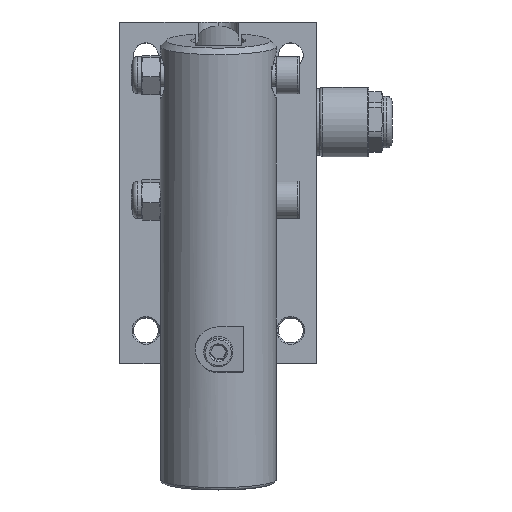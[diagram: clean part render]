
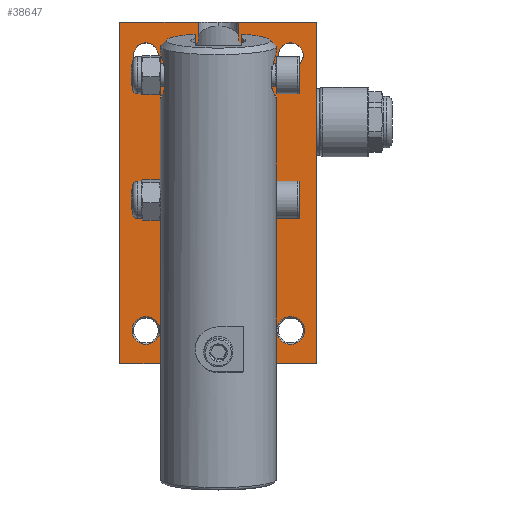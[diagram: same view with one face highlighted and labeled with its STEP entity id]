
A CAD part, top view. The second image highlights one B-rep face of the part: STEP entity #38647.
In plain terms, the highlighted planar face has unit normal (0, 0, 1).
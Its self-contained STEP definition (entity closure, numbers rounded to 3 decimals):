
#281=LINE('',#71716,#4854);
#285=LINE('',#71729,#4858);
#286=LINE('',#71731,#4859);
#292=LINE('',#71801,#4865);
#294=LINE('',#71804,#4867);
#295=LINE('',#71806,#4868);
#297=LINE('',#71809,#4870);
#298=LINE('',#71865,#4871);
#299=LINE('',#71867,#4872);
#300=LINE('',#71869,#4873);
#301=LINE('',#71871,#4874);
#302=LINE('',#71873,#4875);
#4854=VECTOR('',#59704,1000.);
#4858=VECTOR('',#59714,1000.);
#4859=VECTOR('',#59717,1000.);
#4865=VECTOR('',#59783,1000.);
#4867=VECTOR('',#59785,1000.);
#4868=VECTOR('',#59788,1000.);
#4870=VECTOR('',#59790,1000.);
#4871=VECTOR('',#59847,1000.);
#4872=VECTOR('',#59848,1000.);
#4873=VECTOR('',#59849,1000.);
#4874=VECTOR('',#59850,1000.);
#4875=VECTOR('',#59851,1000.);
#9360=PLANE('',#56051);
#12774=ORIENTED_EDGE('',*,*,#23261,.F.);
#12775=ORIENTED_EDGE('',*,*,#23218,.F.);
#12776=ORIENTED_EDGE('',*,*,#23217,.T.);
#12777=ORIENTED_EDGE('',*,*,#23215,.T.);
#12778=ORIENTED_EDGE('',*,*,#23213,.T.);
#12779=ORIENTED_EDGE('',*,*,#23262,.T.);
#12780=ORIENTED_EDGE('',*,*,#23263,.F.);
#12781=ORIENTED_EDGE('',*,*,#23264,.F.);
#12782=ORIENTED_EDGE('',*,*,#23265,.F.);
#12783=ORIENTED_EDGE('',*,*,#23266,.T.);
#12784=ORIENTED_EDGE('',*,*,#23241,.T.);
#12785=ORIENTED_EDGE('',*,*,#23212,.T.);
#12786=ORIENTED_EDGE('',*,*,#23243,.T.);
#12787=ORIENTED_EDGE('',*,*,#23211,.F.);
#12788=ORIENTED_EDGE('',*,*,#23238,.T.);
#12789=ORIENTED_EDGE('',*,*,#23205,.T.);
#12790=ORIENTED_EDGE('',*,*,#23240,.T.);
#12791=ORIENTED_EDGE('',*,*,#23204,.T.);
#23204=EDGE_CURVE('',#32254,#32254,#28394,.F.);
#23205=EDGE_CURVE('',#32233,#32236,#281,.T.);
#23211=EDGE_CURVE('',#32260,#32256,#285,.T.);
#23212=EDGE_CURVE('',#32235,#32234,#286,.T.);
#23213=EDGE_CURVE('',#32261,#32261,#28397,.F.);
#23215=EDGE_CURVE('',#32263,#32263,#28399,.F.);
#23217=EDGE_CURVE('',#32265,#32265,#28401,.T.);
#23218=EDGE_CURVE('',#32266,#32266,#28402,.T.);
#23238=EDGE_CURVE('',#32260,#32233,#292,.T.);
#23240=EDGE_CURVE('',#32236,#32280,#294,.T.);
#23241=EDGE_CURVE('',#32281,#32235,#295,.T.);
#23243=EDGE_CURVE('',#32234,#32256,#297,.T.);
#23261=EDGE_CURVE('',#32293,#32293,#28422,.T.);
#23262=EDGE_CURVE('',#32280,#32294,#298,.T.);
#23263=EDGE_CURVE('',#32295,#32294,#299,.T.);
#23264=EDGE_CURVE('',#32296,#32295,#300,.T.);
#23265=EDGE_CURVE('',#32297,#32296,#301,.T.);
#23266=EDGE_CURVE('',#32297,#32281,#302,.T.);
#28394=CIRCLE('',#55988,19.056);
#28397=CIRCLE('',#55995,4.795);
#28399=CIRCLE('',#55998,4.795);
#28401=CIRCLE('',#56001,7.992);
#28402=CIRCLE('',#56003,4.296);
#28422=CIRCLE('',#56052,4.296);
#29444=EDGE_LOOP('',(#12774));
#29445=EDGE_LOOP('',(#12775));
#29446=EDGE_LOOP('',(#12776));
#29447=EDGE_LOOP('',(#12777));
#29448=EDGE_LOOP('',(#12778));
#29449=EDGE_LOOP('',(#12779,#12780,#12781,#12782,#12783,#12784,#12785,#12786,
#12787,#12788,#12789,#12790));
#29450=EDGE_LOOP('',(#12791));
#32233=VERTEX_POINT('',#71638);
#32234=VERTEX_POINT('',#71641);
#32235=VERTEX_POINT('',#71644);
#32236=VERTEX_POINT('',#71647);
#32254=VERTEX_POINT('',#71714);
#32256=VERTEX_POINT('',#71720);
#32260=VERTEX_POINT('',#71728);
#32261=VERTEX_POINT('',#71734);
#32263=VERTEX_POINT('',#71739);
#32265=VERTEX_POINT('',#71744);
#32266=VERTEX_POINT('',#71747);
#32280=VERTEX_POINT('',#71803);
#32281=VERTEX_POINT('',#71807);
#32293=VERTEX_POINT('',#71864);
#32294=VERTEX_POINT('',#71866);
#32295=VERTEX_POINT('',#71868);
#32296=VERTEX_POINT('',#71870);
#32297=VERTEX_POINT('',#71872);
#36028=FACE_BOUND('',#29444,.T.);
#36029=FACE_BOUND('',#29445,.T.);
#36030=FACE_BOUND('',#29446,.T.);
#36031=FACE_BOUND('',#29447,.T.);
#36032=FACE_BOUND('',#29448,.T.);
#36033=FACE_BOUND('',#29449,.T.);
#36034=FACE_BOUND('',#29450,.T.);
#38647=ADVANCED_FACE('',(#36028,#36029,#36030,#36031,#36032,#36033,#36034),
#9360,.T.);
#55988=AXIS2_PLACEMENT_3D('',#71713,#59700,#59701);
#55995=AXIS2_PLACEMENT_3D('',#71733,#59720,#59721);
#55998=AXIS2_PLACEMENT_3D('',#71738,#59726,#59727);
#56001=AXIS2_PLACEMENT_3D('',#71743,#59732,#59733);
#56003=AXIS2_PLACEMENT_3D('',#71746,#59736,#59737);
#56051=AXIS2_PLACEMENT_3D('',#71862,#59843,#59844);
#56052=AXIS2_PLACEMENT_3D('',#71863,#59845,#59846);
#59700=DIRECTION('',(0.,0.,1.));
#59701=DIRECTION('',(1.,0.,0.));
#59704=DIRECTION('',(0.,1.,0.));
#59714=DIRECTION('',(1.,0.,0.));
#59717=DIRECTION('',(0.,-1.,0.));
#59720=DIRECTION('',(0.,0.,1.));
#59721=DIRECTION('',(1.,0.,0.));
#59726=DIRECTION('',(0.,0.,1.));
#59727=DIRECTION('',(1.,0.,0.));
#59732=DIRECTION('',(0.,0.,-1.));
#59733=DIRECTION('',(1.,0.,0.));
#59736=DIRECTION('',(0.,0.,1.));
#59737=DIRECTION('',(1.,0.,0.));
#59783=DIRECTION('',(0.,1.,0.));
#59785=DIRECTION('',(0.,1.,0.));
#59788=DIRECTION('',(0.,-1.,0.));
#59790=DIRECTION('',(0.,-1.,0.));
#59843=DIRECTION('',(0.,0.,1.));
#59844=DIRECTION('',(1.,0.,0.));
#59845=DIRECTION('',(0.,0.,1.));
#59846=DIRECTION('',(1.,0.,0.));
#59847=DIRECTION('',(-1.,0.,0.));
#59848=DIRECTION('',(0.,1.,0.));
#59849=DIRECTION('',(-1.,0.,0.));
#59850=DIRECTION('',(0.,-1.,0.));
#59851=DIRECTION('',(-1.,0.,0.));
#71638=CARTESIAN_POINT('',(-6.992,98.379,21.985));
#71641=CARTESIAN_POINT('',(6.994,98.379,21.985));
#71644=CARTESIAN_POINT('',(6.994,112.706,21.985));
#71647=CARTESIAN_POINT('',(-6.992,112.706,21.985));
#71713=CARTESIAN_POINT('',(0.001,56.499,21.985));
#71714=CARTESIAN_POINT('',(19.056,56.499,21.985));
#71716=CARTESIAN_POINT('',(-6.992,96.68,21.985));
#71720=CARTESIAN_POINT('',(6.994,94.461,21.985));
#71728=CARTESIAN_POINT('',(-6.992,94.461,21.985));
#71729=CARTESIAN_POINT('',(-4.,94.461,21.985));
#71731=CARTESIAN_POINT('',(6.994,118.936,21.985));
#71733=CARTESIAN_POINT('',(-24.974,11.544,21.985));
#71734=CARTESIAN_POINT('',(-20.179,11.544,21.985));
#71738=CARTESIAN_POINT('',(24.976,11.544,21.985));
#71739=CARTESIAN_POINT('',(29.771,11.544,21.985));
#71743=CARTESIAN_POINT('',(0.001,23.532,21.985));
#71744=CARTESIAN_POINT('',(7.993,23.532,21.985));
#71746=CARTESIAN_POINT('',(-24.974,106.449,21.985));
#71747=CARTESIAN_POINT('',(-20.679,106.449,21.985));
#71801=CARTESIAN_POINT('',(-6.992,96.68,21.985));
#71803=CARTESIAN_POINT('',(-6.992,117.937,21.985));
#71804=CARTESIAN_POINT('',(-6.992,96.68,21.985));
#71806=CARTESIAN_POINT('',(6.994,118.936,21.985));
#71807=CARTESIAN_POINT('',(6.994,117.937,21.985));
#71809=CARTESIAN_POINT('',(6.994,118.936,21.985));
#71862=CARTESIAN_POINT('',(0.001,23.532,21.985));
#71863=CARTESIAN_POINT('',(24.976,106.449,21.985));
#71864=CARTESIAN_POINT('',(29.271,106.449,21.985));
#71865=CARTESIAN_POINT('',(34.966,117.937,21.985));
#71866=CARTESIAN_POINT('',(-33.965,117.937,21.985));
#71867=CARTESIAN_POINT('',(-33.965,20.5,21.985));
#71868=CARTESIAN_POINT('',(-33.965,0.055,21.985));
#71869=CARTESIAN_POINT('',(35.965,0.055,21.985));
#71870=CARTESIAN_POINT('',(33.967,0.055,21.985));
#71871=CARTESIAN_POINT('',(33.967,118.936,21.985));
#71872=CARTESIAN_POINT('',(33.967,117.937,21.985));
#71873=CARTESIAN_POINT('',(34.966,117.937,21.985));
